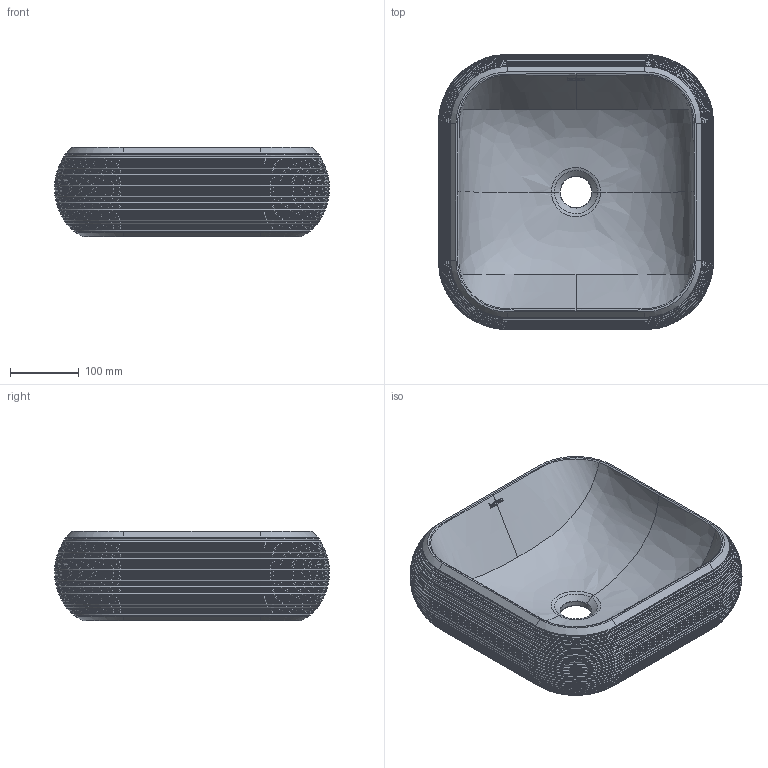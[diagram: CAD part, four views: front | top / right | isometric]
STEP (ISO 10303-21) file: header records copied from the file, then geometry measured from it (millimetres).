
FILE_DESCRIPTION(/* description */ (''),/* implementation_level */ '2;1');
FILE_NAME(/* name */ '00610_~2',/* time_stamp */ '2023-11-15T12:49:31+01:00',/* author */ (''),/* organization */ (''),/* preprocessor_version */ 'ST-DEVELOPER v16.5',/* originating_system */ '',/* authorisation */ '');
FILE_SCHEMA (('AUTOMOTIVE_DESIGN_CC2'));
Length unit declared in the file: millimetre
Products named in the file (1): Document
Bounding box: 401.14 x 401.14 x 130 mm (x, y, z)
Volume: 7276078.8 mm3; surface area: 569314.2 mm2
Topology: 6 solids, 7 shells, 924 faces, 1899 edges, 982 vertices
Faces by surface type: bspline 652, cylinder 260, plane 12
Entity records: 85314 total; most frequent: CARTESIAN_POINT 72576, ORIENTED_EDGE 3793, EDGE_CURVE 1899, B_SPLINE_CURVE_WITH_KNOTS 1798, VERTEX_POINT 984, EDGE_LOOP 930, ADVANCED_FACE 924, FACE_OUTER_BOUND 924
